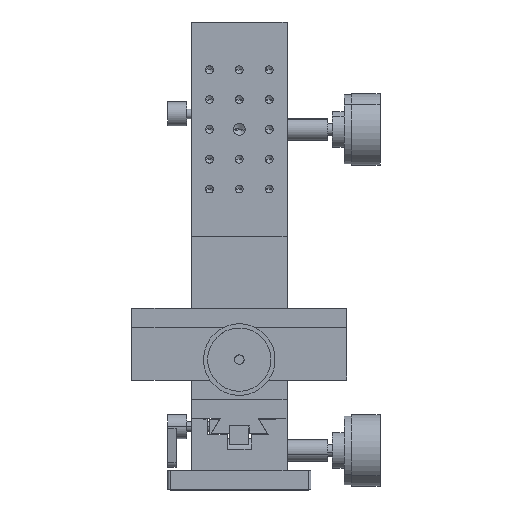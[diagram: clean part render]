
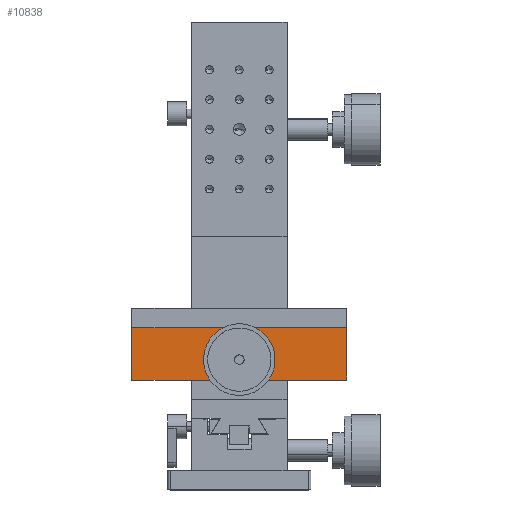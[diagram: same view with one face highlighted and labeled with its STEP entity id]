
A CAD part, top view. The second image highlights one B-rep face of the part: STEP entity #10838.
In plain terms, the highlighted planar face has unit normal (0, 0, 1).
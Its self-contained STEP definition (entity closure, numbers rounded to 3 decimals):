
#149 = CARTESIAN_POINT ( 'NONE',  ( -45., 22., 20. ) ) ;
#666 = CARTESIAN_POINT ( 'NONE',  ( 0., 3.5, 20. ) ) ;
#1248 = VERTEX_POINT ( 'NONE', #6889 ) ;
#1750 = CARTESIAN_POINT ( 'NONE',  ( 45., 22., 20. ) ) ;
#2261 = DIRECTION ( 'NONE',  ( 0., 0., -1. ) ) ;
#2315 = CIRCLE ( 'NONE', #18365, 5. ) ;
#2614 = EDGE_CURVE ( 'NONE', #19177, #9339, #18497, .T. ) ;
#2779 = CIRCLE ( 'NONE', #18981, 5. ) ;
#3067 = EDGE_CURVE ( 'NONE', #1248, #12243, #2315, .T. ) ;
#3092 = DIRECTION ( 'NONE',  ( 0., 1., 0. ) ) ;
#3154 = DIRECTION ( 'NONE',  ( 0., 0., -1. ) ) ;
#3213 = CARTESIAN_POINT ( 'NONE',  ( 0., 8.5, 20. ) ) ;
#3268 = EDGE_CURVE ( 'NONE', #9339, #12508, #6375, .T. ) ;
#3757 = VECTOR ( 'NONE', #12293, 1000. ) ;
#4290 = VERTEX_POINT ( 'NONE', #5205 ) ;
#5205 = CARTESIAN_POINT ( 'NONE',  ( 45., 0., 20. ) ) ;
#5346 = EDGE_CURVE ( 'NONE', #4290, #12508, #8043, .T. ) ;
#5441 = EDGE_CURVE ( 'NONE', #19177, #4290, #6544, .T. ) ;
#5842 = EDGE_LOOP ( 'NONE', ( #19405, #10499 ) ) ;
#6375 = LINE ( 'NONE', #16260, #18231 ) ;
#6544 = LINE ( 'NONE', #8629, #14247 ) ;
#6889 = CARTESIAN_POINT ( 'NONE',  ( 0., 13.5, 20. ) ) ;
#8043 = LINE ( 'NONE', #12031, #3757 ) ;
#8629 = CARTESIAN_POINT ( 'NONE',  ( 45., 0., 20. ) ) ;
#9050 = DIRECTION ( 'NONE',  ( -1., 0., 0. ) ) ;
#9184 = CARTESIAN_POINT ( 'NONE',  ( 45., 22., 20. ) ) ;
#9266 = ORIENTED_EDGE ( 'NONE', *, *, #3268, .T. ) ;
#9321 = EDGE_LOOP ( 'NONE', ( #9266, #16110, #9602, #10711 ) ) ;
#9339 = VERTEX_POINT ( 'NONE', #149 ) ;
#9602 = ORIENTED_EDGE ( 'NONE', *, *, #5441, .F. ) ;
#10243 = DIRECTION ( 'NONE',  ( 0., 1., 0. ) ) ;
#10311 = DIRECTION ( 'NONE',  ( 0., 0., -1. ) ) ;
#10468 = CARTESIAN_POINT ( 'NONE',  ( 0., 8.5, 20. ) ) ;
#10499 = ORIENTED_EDGE ( 'NONE', *, *, #14334, .T. ) ;
#10591 = AXIS2_PLACEMENT_3D ( 'NONE', #11460, #10311, #10243 ) ;
#10699 = DIRECTION ( 'NONE',  ( 0., -1., 0. ) ) ;
#10711 = ORIENTED_EDGE ( 'NONE', *, *, #2614, .T. ) ;
#10838 = ADVANCED_FACE ( 'NONE', ( #19751, #11098 ), #11594, .F. ) ;
#11098 = FACE_OUTER_BOUND ( 'NONE', #9321, .T. ) ;
#11460 = CARTESIAN_POINT ( 'NONE',  ( 45., 0., 20. ) ) ;
#11594 = PLANE ( 'NONE',  #10591 ) ;
#12031 = CARTESIAN_POINT ( 'NONE',  ( 45., 0., 20. ) ) ;
#12243 = VERTEX_POINT ( 'NONE', #666 ) ;
#12293 = DIRECTION ( 'NONE',  ( -1., 0., 0. ) ) ;
#12508 = VERTEX_POINT ( 'NONE', #13062 ) ;
#13062 = CARTESIAN_POINT ( 'NONE',  ( -45., 0., 20. ) ) ;
#14194 = DIRECTION ( 'NONE',  ( 0., 1., 0. ) ) ;
#14247 = VECTOR ( 'NONE', #10699, 1000. ) ;
#14334 = EDGE_CURVE ( 'NONE', #12243, #1248, #2779, .T. ) ;
#14356 = VECTOR ( 'NONE', #9050, 1000. ) ;
#16110 = ORIENTED_EDGE ( 'NONE', *, *, #5346, .F. ) ;
#16260 = CARTESIAN_POINT ( 'NONE',  ( -45., 0., 20. ) ) ;
#18231 = VECTOR ( 'NONE', #18604, 1000. ) ;
#18365 = AXIS2_PLACEMENT_3D ( 'NONE', #3213, #3154, #3092 ) ;
#18497 = LINE ( 'NONE', #9184, #14356 ) ;
#18604 = DIRECTION ( 'NONE',  ( 0., -1., 0. ) ) ;
#18981 = AXIS2_PLACEMENT_3D ( 'NONE', #10468, #2261, #14194 ) ;
#19177 = VERTEX_POINT ( 'NONE', #1750 ) ;
#19405 = ORIENTED_EDGE ( 'NONE', *, *, #3067, .T. ) ;
#19751 = FACE_BOUND ( 'NONE', #5842, .T. ) ;
